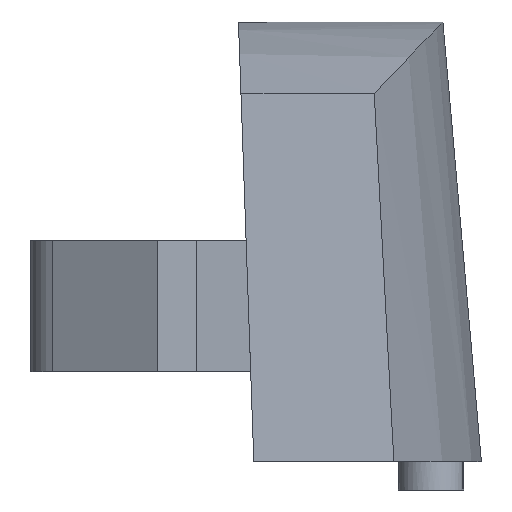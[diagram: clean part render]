
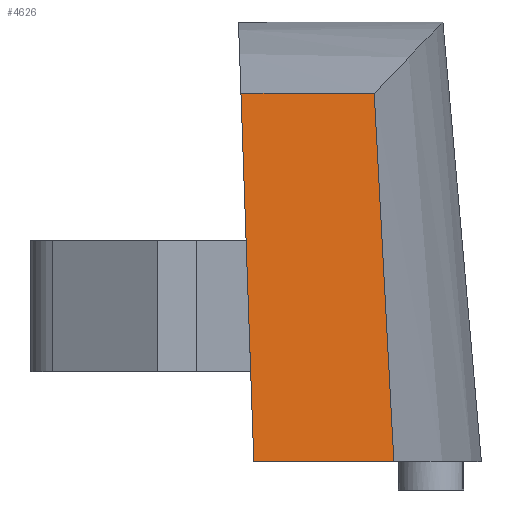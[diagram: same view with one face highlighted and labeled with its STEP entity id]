
A CAD part, front view. The second image highlights one B-rep face of the part: STEP entity #4626.
In plain terms, the highlighted planar face has unit normal (0, -0.996, 0.087).
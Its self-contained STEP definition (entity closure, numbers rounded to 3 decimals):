
#1226=CARTESIAN_POINT(' ',(-2.,-30.5,-5.022));
#1227=VERTEX_POINT(' ',#1226);
#1241=CARTESIAN_POINT(' ',(-5.2,-30.5,-5.022));
#1246=DIRECTION(' ',(1.,0.,0.));
#1251=VECTOR(' ',#1246,1.);
#1256=LINE('',#1241,#1251);
#1261=CARTESIAN_POINT(' ',(-5.2,-30.5,-5.022));
#1262=VERTEX_POINT(' ',#1261);
#1266=EDGE_CURVE(' ',#1262,#1227,#1256,.T.);
#3396=CARTESIAN_POINT(' ',(-5.494,-29.764,3.392));
#3401=DIRECTION(' ',(0.035,-0.087,-0.996));
#3406=VECTOR(' ',#3401,1.);
#3411=LINE('',#3396,#3406);
#3416=CARTESIAN_POINT(' ',(-5.494,-29.764,3.392));
#3417=VERTEX_POINT(' ',#3416);
#3421=EDGE_CURVE(' ',#3417,#1262,#3411,.T.);
#4431=CARTESIAN_POINT(' ',(-2.448,-29.764,3.392));
#4436=DIRECTION(' ',(0.053,-0.087,-0.995));
#4441=VECTOR(' ',#4436,1.);
#4446=LINE('',#4431,#4441);
#4451=CARTESIAN_POINT(' ',(-2.448,-29.764,3.392));
#4452=VERTEX_POINT(' ',#4451);
#4456=EDGE_CURVE(' ',#4452,#1227,#4446,.T.);
#4546=DIRECTION(' ',(0.,-0.996,0.087));
#4551=CARTESIAN_POINT(' ',(-5.494,-29.764,3.392));
#4556=DIRECTION(' ',(0.,-0.087,-0.996));
#4561=AXIS2_PLACEMENT_3D(' ',#4551,#4546,#4556);
#4566=PLANE('',#4561);
#4571=ORIENTED_EDGE(' ',*,*,#4456,.F.);
#4576=CARTESIAN_POINT(' ',(-5.494,-29.764,3.392));
#4581=DIRECTION(' ',(1.,0.,0.));
#4586=VECTOR(' ',#4581,1.);
#4591=LINE('',#4576,#4586);
#4596=EDGE_CURVE(' ',#3417,#4452,#4591,.T.);
#4601=ORIENTED_EDGE(' ',*,*,#4596,.F.);
#4606=ORIENTED_EDGE(' ',*,*,#3421,.T.);
#4611=ORIENTED_EDGE(' ',*,*,#1266,.T.);
#4616=EDGE_LOOP(' ',(#4571,#4601,#4606,#4611));
#4621=FACE_OUTER_BOUND(' ',#4616,.T.);
#4626=ADVANCED_FACE('',(#4621),#4566,.T.);
